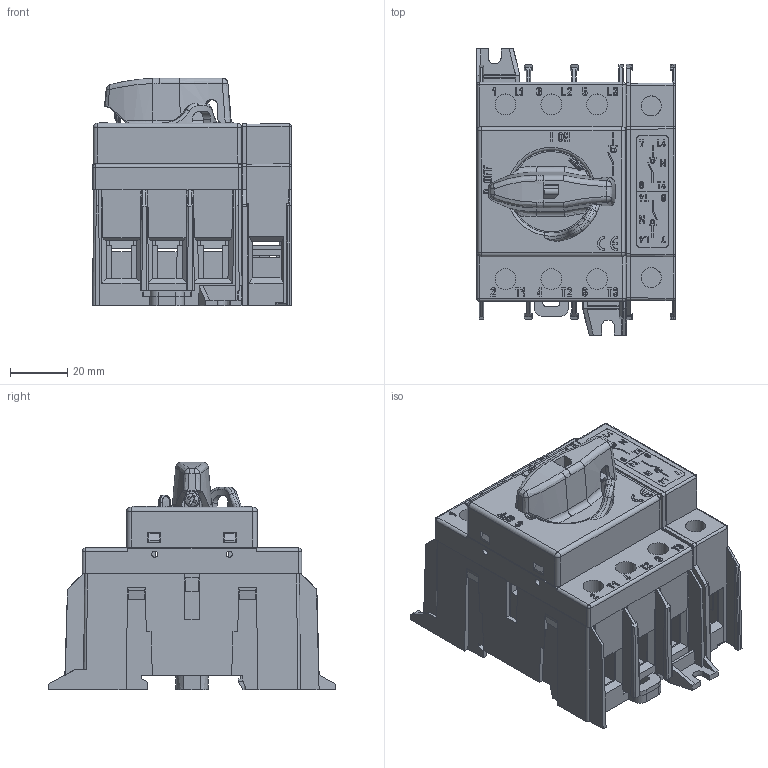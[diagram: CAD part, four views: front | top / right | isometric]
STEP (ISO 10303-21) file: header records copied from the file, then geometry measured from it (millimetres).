
FILE_DESCRIPTION((''),'2;1');
FILE_NAME('Z:\PROGETTI INVENTOR\DIEGO\4 COMMERCIALE - PRODUZIONE - INFORMATIVA\MATERIALE DI COSTRUZIONE\BLOCCHI SOLIDI 2013\BLOCCHI SOLIDI SD2\BLOCCO SD2 4P 2013.stp','2013-02-20T10:22:25',('diego'),(''),'Autodesk Inventor 2013','Autodesk Inventor 2013','');
FILE_SCHEMA(('AUTOMOTIVE_DESIGN { 1 0 10303 214 1 1 1 1 }'));
Length unit declared in the file: millimetre
Products named in the file (1): BLOCCO SD2 4P 2013
Bounding box: 69.46 x 100.03 x 79.55 mm (x, y, z)
Volume: 105501.2 mm3; surface area: 137564 mm2
Topology: 1 solids, 1 shells, 2773 faces, 7929 edges, 5147 vertices
Faces by surface type: plane 2246, cylinder 296, cone 120, bspline 51, sphere 31, torus 29
Full cylindrical faces by diameter (mm): 0.48 x2, 0.96 x1, 0.962 x1, 1.2 x1, 2 x11, 2.2 x4, 2.3 x16, 3 x6, 3.2 x1, 3.227 x2, 5.4 x2, 5.5 x2, 6.5 x2, 7 x2, 7.3 x6, 12.7 x1, 15.2 x1, 24 x1, 29 x1
Entity records: 95716 total; most frequent: CARTESIAN_POINT 23009, ORIENTED_EDGE 15426, DIRECTION 13745, EDGE_CURVE 7713, VECTOR 6473, LINE 6473, VERTEX_POINT 5054, AXIS2_PLACEMENT_3D 3636
